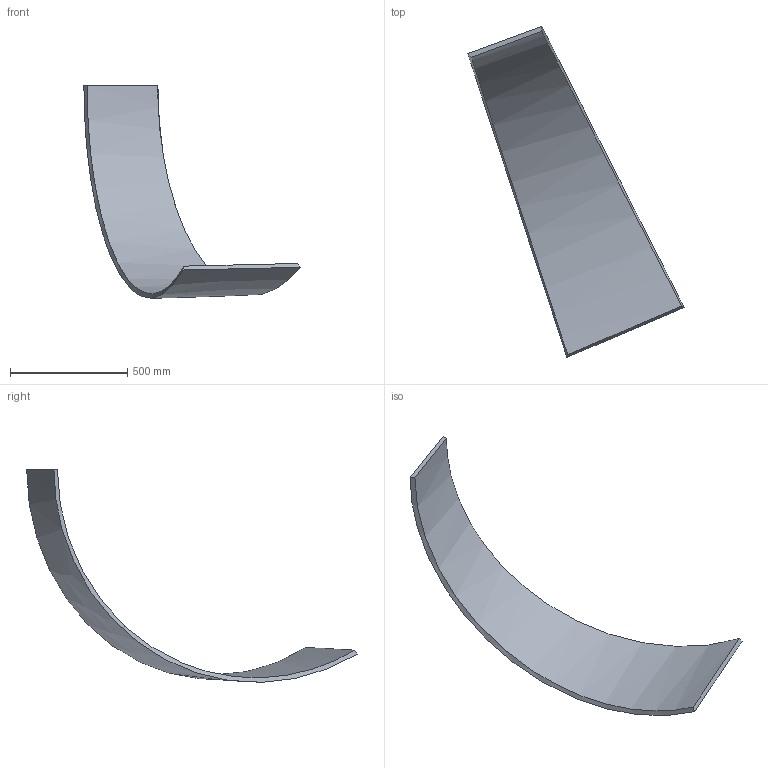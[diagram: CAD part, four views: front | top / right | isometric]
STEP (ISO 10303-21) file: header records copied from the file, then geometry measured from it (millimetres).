
FILE_DESCRIPTION (( 'STEP AP214' ), '1' );
FILE_NAME ('P11.2.STEP', '2025-01-09T19:43:25', ( '' ), ( '' ), 'SwSTEP 2.0', 'SolidWorks 2024', '' );
FILE_SCHEMA (( 'AUTOMOTIVE_DESIGN' ));
Length unit declared in the file: inch
Products named in the file (1): P11.2
Bounding box: 923.28 x 1412.02 x 907.66 mm (x, y, z)
Volume: 14559881 mm3; surface area: 1623135.1 mm2
Topology: 1 solids, 1 shells, 6 faces, 12 edges, 8 vertices
Faces by surface type: bspline 6
Entity records: 1576 total; most frequent: CARTESIAN_POINT 1462, ORIENTED_EDGE 24, EDGE_CURVE 12, B_SPLINE_CURVE_WITH_KNOTS 12, VERTEX_POINT 8, B_SPLINE_SURFACE_WITH_KNOTS 6, FACE_OUTER_BOUND 6, ADVANCED_FACE 6
